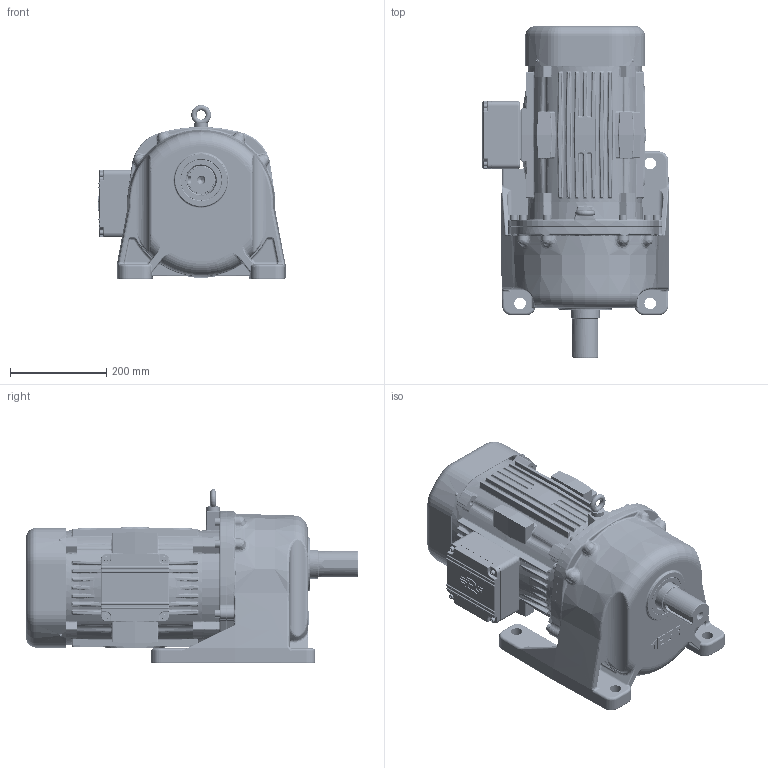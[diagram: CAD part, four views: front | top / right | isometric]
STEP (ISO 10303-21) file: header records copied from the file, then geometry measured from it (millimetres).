
FILE_DESCRIPTION(/* description */ (''),/* implementation_level */ '2;1');
FILE_NAME(/* name */ 'Z:\동력 3D 파일\PML205_7.5kW_3D.stp',/* time_stamp */ '2021-11-30T16:37:17+09:00',/* author */ ('jaebok'),/* organization */ (''),/* preprocessor_version */ 'ST-DEVELOPER v18.1',/* originating_system */ 'Autodesk Inventor 2022',/* authorisation */ '');
FILE_SCHEMA (('AUTOMOTIVE_DESIGN { 1 0 10303 214 3 1 1 }'));
Length unit declared in the file: millimetre
Products named in the file (1): 부품27
Bounding box: 387.9 x 688.5 x 360.5 mm (x, y, z)
Volume: 11559265.6 mm3; surface area: 2087553.4 mm2
Topology: 3 solids, 29 shells, 5392 faces, 13206 edges, 7750 vertices
Faces by surface type: bspline 1688, cylinder 1383, plane 1305, torus 527, sphere 308, cone 181
Full cylindrical faces by diameter (mm): 3.242 x4, 4.134 x4, 4.917 x9, 5 x16, 6 x9, 6.5 x8, 6.647 x9, 7 x4, 8 x4, 8.376 x9, 9.5 x4, 10 x15, 10.106 x1, 12 x1, 13.2 x1, 13.835 x1, 15 x1, 16 x8, 20 x1, 24 x4, 28 x1, 32 x1, 34 x2, 44 x1, 45 x1, 50 x2, 55 x1, 60 x5, 62 x2, 67.5 x2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
Entity records: 211264 total; most frequent: CARTESIAN_POINT 89734, ORIENTED_EDGE 25832, DIRECTION 21956, EDGE_CURVE 12916, AXIS2_PLACEMENT_3D 8705, VERTEX_POINT 7749, EDGE_LOOP 5691, FACE_OUTER_BOUND 5392
